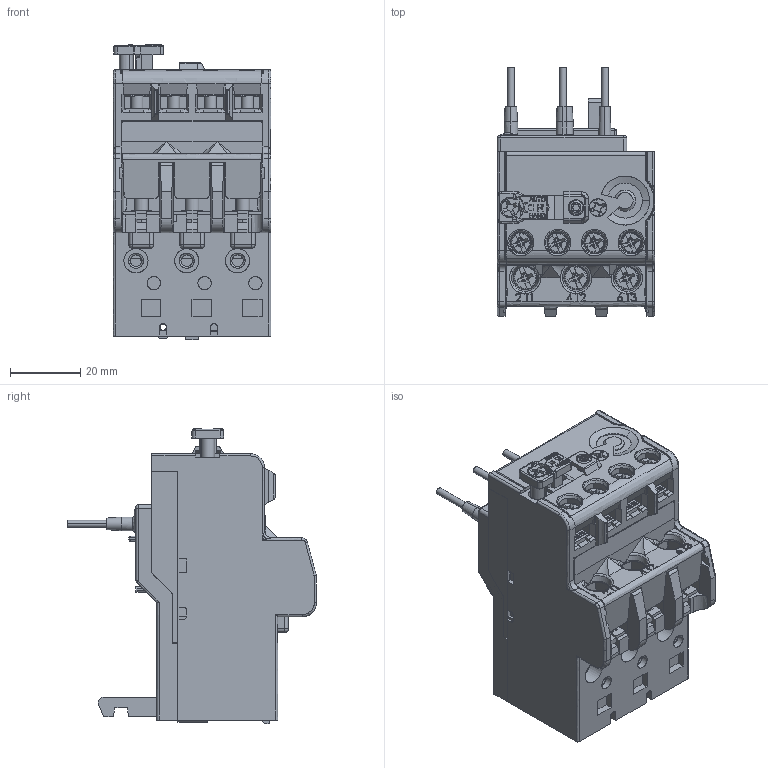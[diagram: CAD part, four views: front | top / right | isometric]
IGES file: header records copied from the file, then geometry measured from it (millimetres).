
Start section: SolidWorks IGES file using analytic representation for surfaces
Global section: file name: \\Brjgs100\dfsweg\GROUPS\BR_SC_JGS_WA_TECNICO\ENG\Usuarios\Rodrigob\conversão\Reles de Sobrecarga\Produto\RWL27-1D\RWL27-1D.IGS; native system: SolidWorks 2016; preprocessor: SolidWorks 2016; author: rodrigob; date: 180611.162629; units: millimetre
Bounding box: 45 x 71 x 84.25 mm (x, y, z)
Surface area: 49677.1 mm2 (no closed solid volume)
Topology: 0 solids, 0 shells, 3085 faces, 27365 edges, 27282 vertices
Faces by surface type: bspline 2298, revolution 787
